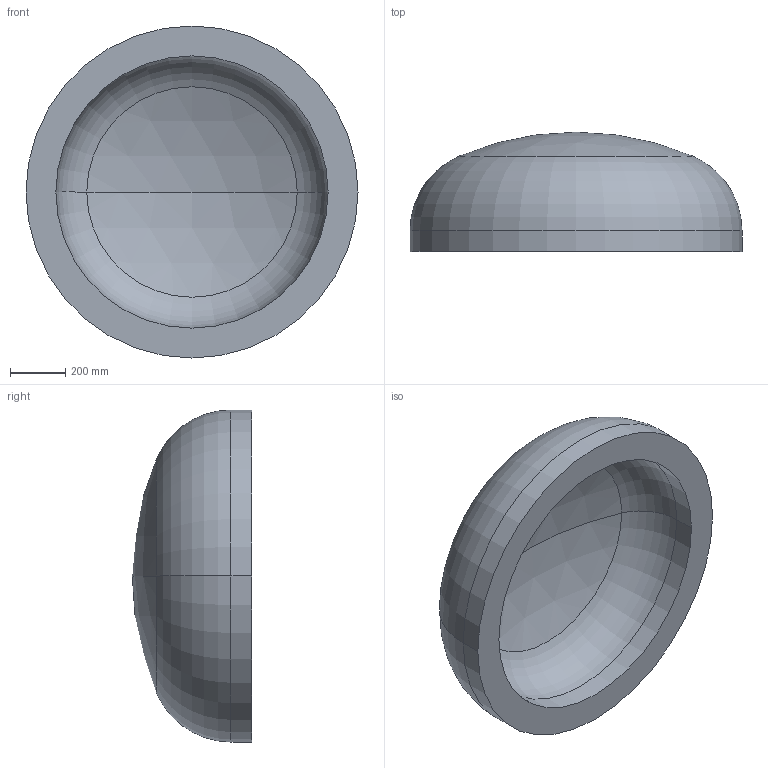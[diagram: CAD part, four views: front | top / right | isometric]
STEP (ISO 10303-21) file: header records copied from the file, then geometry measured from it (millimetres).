
FILE_DESCRIPTION (( 'STEP AP203' ), '1' );
FILE_NAME ('DIN 28013 Korbbogenform_-_Boden DIN 28013 - 1200 x 75 - I - s=108.step', '2016-07-01T09:38:48', ( '' ), ( '' ), 'SwSTEP 2.0', 'SolidWorks 2013', '' );
FILE_SCHEMA (( 'CONFIG_CONTROL_DESIGN' ));
Length unit declared in the file: millimetre
Products named in the file (1): DIN 28013 Korbbogenform_-_Boden DIN 28013 - 1200 x 75 - I - s=108
Bounding box: 1200 x 431.4 x 1200 mm (x, y, z)
Volume: 179045277.9 mm3; surface area: 3710588.6 mm2
Topology: 1 solids, 1 shells, 13 faces, 24 edges, 14 vertices
Faces by surface type: torus 4, cylinder 4, sphere 4, plane 1
Entity records: 407 total; most frequent: DIRECTION 72, CARTESIAN_POINT 52, ORIENTED_EDGE 48, AXIS2_PLACEMENT_3D 34, EDGE_CURVE 24, CIRCLE 20, EDGE_LOOP 14, VERTEX_POINT 14
